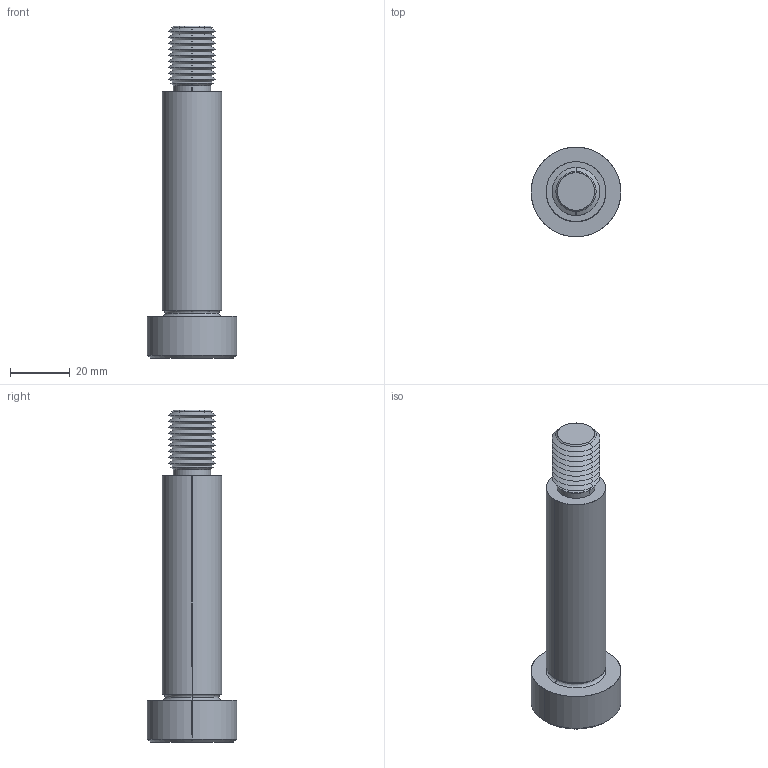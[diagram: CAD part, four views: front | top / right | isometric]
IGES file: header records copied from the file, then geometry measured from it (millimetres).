
Start section: SolidWorks IGES file using analytic representation for surfaces
Global section: file name: C:\Users\IanO\Documents\Temp Folder\GENERAL\SCREW REVISION\P0130_v2\P0130.T5_v2_20220106_IGES\P0130.200-075-T5.igs; native system: SolidWorks 2019; preprocessor: SolidWorks 2019; author: IanO; date: 220106.230232; units: millimetre
Bounding box: 30 x 30 x 111 mm (x, y, z)
Surface area: 9630.4 mm2 (no closed solid volume)
Topology: 0 solids, 0 shells, 80 faces, 692 edges, 690 vertices
Faces by surface type: revolution 60, bspline 20
